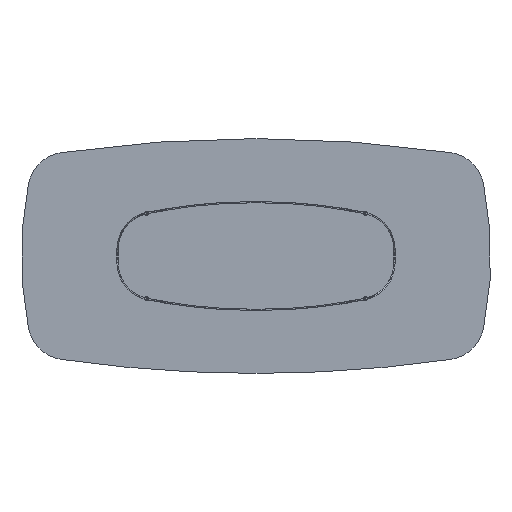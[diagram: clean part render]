
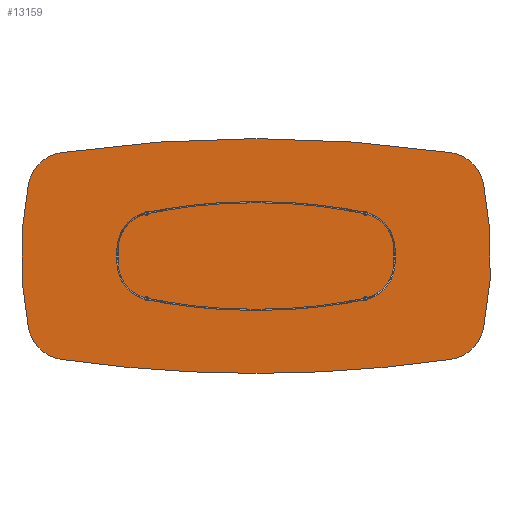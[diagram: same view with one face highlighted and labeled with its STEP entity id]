
A CAD part, front view. The second image highlights one B-rep face of the part: STEP entity #13159.
In plain terms, the highlighted planar face has unit normal (0, -1, 0).
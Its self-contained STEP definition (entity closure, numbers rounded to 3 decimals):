
#366 = ORIENTED_EDGE ( 'NONE', *, *, #14290, .T. ) ;
#581 = AXIS2_PLACEMENT_3D ( 'NONE', #16625, #8745, #12575 ) ;
#787 = VERTEX_POINT ( 'NONE', #7636 ) ;
#1475 = CARTESIAN_POINT ( 'NONE',  ( 966.467, 0., -330.452 ) ) ;
#1987 = CARTESIAN_POINT ( 'NONE',  ( -322.5, 0., 3175. ) ) ;
#2177 = CARTESIAN_POINT ( 'NONE',  ( 1162.39, 0., -370.629 ) ) ;
#2850 = CIRCLE ( 'NONE', #16213, 1845. ) ;
#2863 = AXIS2_PLACEMENT_3D ( 'NONE', #11090, #4542, #9980 ) ;
#3512 = DIRECTION ( 'NONE',  ( 0., 1., 0. ) ) ;
#3603 = DIRECTION ( 'NONE',  ( 0., 0., 1. ) ) ;
#3713 = CARTESIAN_POINT ( 'NONE',  ( 0., 0., 6350. ) ) ;
#3998 = EDGE_CURVE ( 'NONE', #5136, #787, #10615, .T. ) ;
#4217 = CIRCLE ( 'NONE', #13749, 6950. ) ;
#4495 = DIRECTION ( 'NONE',  ( 0., 0., 1. ) ) ;
#4542 = DIRECTION ( 'NONE',  ( 0., -1., 0. ) ) ;
#4547 = VERTEX_POINT ( 'NONE', #9666 ) ;
#4560 = CARTESIAN_POINT ( 'NONE',  ( -1162.39, 0., -370.629 ) ) ;
#5022 = CIRCLE ( 'NONE', #13488, 200. ) ;
#5136 = VERTEX_POINT ( 'NONE', #4560 ) ;
#5467 = CARTESIAN_POINT ( 'NONE',  ( -995.103, 0., 528.391 ) ) ;
#5498 = ORIENTED_EDGE ( 'NONE', *, *, #8309, .T. ) ;
#5674 = ORIENTED_EDGE ( 'NONE', *, *, #11468, .F. ) ;
#5755 = ORIENTED_EDGE ( 'NONE', *, *, #5761, .F. ) ;
#5761 = EDGE_CURVE ( 'NONE', #12876, #12314, #15001, .T. ) ;
#6392 = CARTESIAN_POINT ( 'NONE',  ( 966.467, 0., 330.452 ) ) ;
#6876 = CARTESIAN_POINT ( 'NONE',  ( 0., 0., -6350. ) ) ;
#7001 = FACE_OUTER_BOUND ( 'NONE', #8341, .T. ) ;
#7198 = ORIENTED_EDGE ( 'NONE', *, *, #3998, .F. ) ;
#7332 = EDGE_CURVE ( 'NONE', #13030, #4547, #11716, .T. ) ;
#7636 = CARTESIAN_POINT ( 'NONE',  ( -1162.39, 0., 370.629 ) ) ;
#7836 = DIRECTION ( 'NONE',  ( 0., 0., 1. ) ) ;
#8309 = EDGE_CURVE ( 'NONE', #5136, #12314, #14461, .T. ) ;
#8341 = EDGE_LOOP ( 'NONE', ( #9530, #10642, #7198, #5498, #5755, #10865, #366, #5674, #10028 ) ) ;
#8414 = DIRECTION ( 'NONE',  ( 0., 1., 0. ) ) ;
#8595 = VERTEX_POINT ( 'NONE', #2177 ) ;
#8745 = DIRECTION ( 'NONE',  ( 0., -1., 0. ) ) ;
#8835 = VERTEX_POINT ( 'NONE', #10534 ) ;
#8894 = DIRECTION ( 'NONE',  ( 0., 0., 1. ) ) ;
#8948 = CARTESIAN_POINT ( 'NONE',  ( 0., 0., 6350. ) ) ;
#9530 = ORIENTED_EDGE ( 'NONE', *, *, #7332, .F. ) ;
#9599 = DIRECTION ( 'NONE',  ( 0., 1., 0. ) ) ;
#9656 = AXIS2_PLACEMENT_3D ( 'NONE', #1475, #11588, #14329 ) ;
#9666 = CARTESIAN_POINT ( 'NONE',  ( 995.103, 0., 528.391 ) ) ;
#9980 = DIRECTION ( 'NONE',  ( 0., 0., 1. ) ) ;
#10028 = ORIENTED_EDGE ( 'NONE', *, *, #14272, .T. ) ;
#10046 = CARTESIAN_POINT ( 'NONE',  ( 995.103, 0., -528.391 ) ) ;
#10095 = DIRECTION ( 'NONE',  ( 0., 1., 0. ) ) ;
#10534 = CARTESIAN_POINT ( 'NONE',  ( 1162.39, 0., 370.629 ) ) ;
#10615 = CIRCLE ( 'NONE', #14987, 1845. ) ;
#10642 = ORIENTED_EDGE ( 'NONE', *, *, #13679, .T. ) ;
#10865 = ORIENTED_EDGE ( 'NONE', *, *, #15048, .F. ) ;
#11090 = CARTESIAN_POINT ( 'NONE',  ( -966.467, 0., 330.452 ) ) ;
#11134 = CARTESIAN_POINT ( 'NONE',  ( -995.103, 0., -528.391 ) ) ;
#11468 = EDGE_CURVE ( 'NONE', #8835, #8595, #2850, .T. ) ;
#11588 = DIRECTION ( 'NONE',  ( 0., -1., 0. ) ) ;
#11716 = CIRCLE ( 'NONE', #13647, 6950. ) ;
#11756 = DIRECTION ( 'NONE',  ( 0., -1., 0. ) ) ;
#12284 = DIRECTION ( 'NONE',  ( 0., 0., 1. ) ) ;
#12314 = VERTEX_POINT ( 'NONE', #11134 ) ;
#12575 = DIRECTION ( 'NONE',  ( 0., 0., 1. ) ) ;
#12876 = VERTEX_POINT ( 'NONE', #16605 ) ;
#13030 = VERTEX_POINT ( 'NONE', #5467 ) ;
#13159 = ADVANCED_FACE ( 'NONE', ( #7001 ), #13660, .F. ) ;
#13202 = CIRCLE ( 'NONE', #9656, 200. ) ;
#13488 = AXIS2_PLACEMENT_3D ( 'NONE', #6392, #11756, #7836 ) ;
#13647 = AXIS2_PLACEMENT_3D ( 'NONE', #6876, #9599, #4495 ) ;
#13660 = PLANE ( 'NONE',  #13722 ) ;
#13679 = EDGE_CURVE ( 'NONE', #13030, #787, #15946, .T. ) ;
#13722 = AXIS2_PLACEMENT_3D ( 'NONE', #1987, #3512, #12284 ) ;
#13749 = AXIS2_PLACEMENT_3D ( 'NONE', #3713, #8414, #8894 ) ;
#14047 = CARTESIAN_POINT ( 'NONE',  ( 645., 0., 0. ) ) ;
#14272 = EDGE_CURVE ( 'NONE', #8835, #4547, #5022, .T. ) ;
#14290 = EDGE_CURVE ( 'NONE', #16131, #8595, #13202, .T. ) ;
#14329 = DIRECTION ( 'NONE',  ( 0., 0., 1. ) ) ;
#14380 = DIRECTION ( 'NONE',  ( 0., 1., 0. ) ) ;
#14461 = CIRCLE ( 'NONE', #581, 200. ) ;
#14987 = AXIS2_PLACEMENT_3D ( 'NONE', #14047, #14380, #15592 ) ;
#15001 = CIRCLE ( 'NONE', #16102, 6950. ) ;
#15048 = EDGE_CURVE ( 'NONE', #16131, #12876, #4217, .T. ) ;
#15150 = CARTESIAN_POINT ( 'NONE',  ( -645., 0., 0. ) ) ;
#15290 = DIRECTION ( 'NONE',  ( 0., 1., 0. ) ) ;
#15419 = DIRECTION ( 'NONE',  ( 0., 0., 1. ) ) ;
#15592 = DIRECTION ( 'NONE',  ( 0., 0., 1. ) ) ;
#15946 = CIRCLE ( 'NONE', #2863, 200. ) ;
#16102 = AXIS2_PLACEMENT_3D ( 'NONE', #8948, #15290, #3603 ) ;
#16131 = VERTEX_POINT ( 'NONE', #10046 ) ;
#16213 = AXIS2_PLACEMENT_3D ( 'NONE', #15150, #10095, #15419 ) ;
#16605 = CARTESIAN_POINT ( 'NONE',  ( 0., 0., -600. ) ) ;
#16625 = CARTESIAN_POINT ( 'NONE',  ( -966.467, 0., -330.452 ) ) ;
